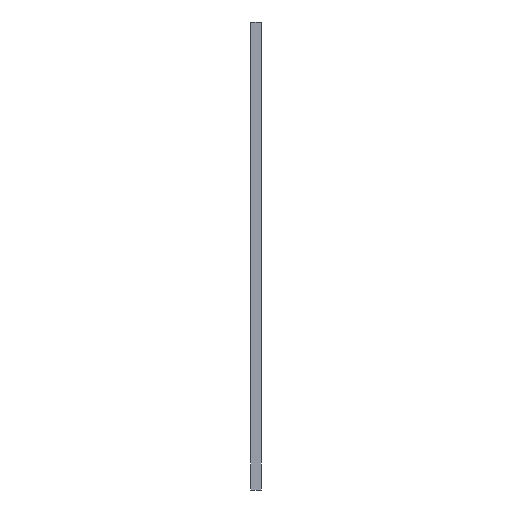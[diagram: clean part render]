
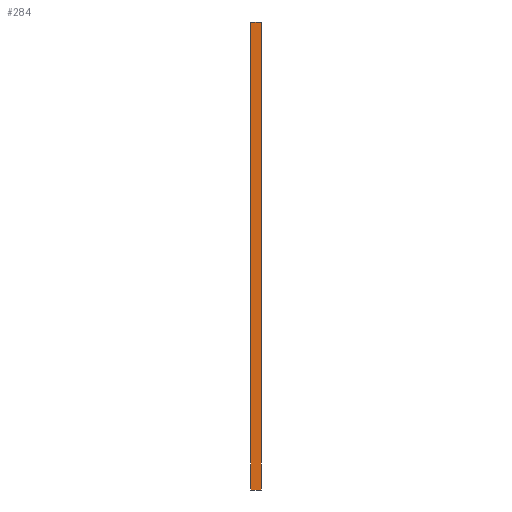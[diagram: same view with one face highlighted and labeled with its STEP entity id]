
A CAD part, front view. The second image highlights one B-rep face of the part: STEP entity #284.
In plain terms, the highlighted planar face has unit normal (0, -1, 0).
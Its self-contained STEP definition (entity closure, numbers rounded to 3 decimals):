
#21 = EDGE_CURVE('',#22,#24,#26,.T.);
#22 = VERTEX_POINT('',#23);
#23 = CARTESIAN_POINT('',(0.,0.,86.));
#24 = VERTEX_POINT('',#25);
#25 = CARTESIAN_POINT('',(2.,0.,86.));
#26 = SURFACE_CURVE('',#27,(#31,#43),.PCURVE_S1.);
#27 = LINE('',#28,#29);
#28 = CARTESIAN_POINT('',(0.,0.,86.));
#29 = VECTOR('',#30,1.);
#30 = DIRECTION('',(1.,0.,0.));
#31 = PCURVE('',#32,#37);
#32 = PLANE('',#33);
#33 = AXIS2_PLACEMENT_3D('',#34,#35,#36);
#34 = CARTESIAN_POINT('',(0.,0.,86.));
#35 = DIRECTION('',(0.,0.,1.));
#36 = DIRECTION('',(0.,1.,0.));
#37 = DEFINITIONAL_REPRESENTATION('',(#38),#42);
#38 = LINE('',#39,#40);
#39 = CARTESIAN_POINT('',(0.,0.));
#40 = VECTOR('',#41,1.);
#41 = DIRECTION('',(0.,-1.));
#42 = ( GEOMETRIC_REPRESENTATION_CONTEXT(2) 
PARAMETRIC_REPRESENTATION_CONTEXT() REPRESENTATION_CONTEXT('2D SPACE',''
  ) );
#43 = PCURVE('',#44,#49);
#44 = PLANE('',#45);
#45 = AXIS2_PLACEMENT_3D('',#46,#47,#48);
#46 = CARTESIAN_POINT('',(0.,0.,0.));
#47 = DIRECTION('',(0.,-1.,0.));
#48 = DIRECTION('',(0.,0.,1.));
#49 = DEFINITIONAL_REPRESENTATION('',(#50),#54);
#50 = LINE('',#51,#52);
#51 = CARTESIAN_POINT('',(86.,0.));
#52 = VECTOR('',#53,1.);
#53 = DIRECTION('',(0.,-1.));
#54 = ( GEOMETRIC_REPRESENTATION_CONTEXT(2) 
PARAMETRIC_REPRESENTATION_CONTEXT() REPRESENTATION_CONTEXT('2D SPACE',''
  ) );
#72 = PLANE('',#73);
#73 = AXIS2_PLACEMENT_3D('',#74,#75,#76);
#74 = CARTESIAN_POINT('',(2.,75.,43.));
#75 = DIRECTION('',(-1.,-0.,0.));
#76 = DIRECTION('',(0.,0.,-1.));
#126 = PLANE('',#127);
#127 = AXIS2_PLACEMENT_3D('',#128,#129,#130);
#128 = CARTESIAN_POINT('',(0.,75.,43.));
#129 = DIRECTION('',(-1.,-0.,0.));
#130 = DIRECTION('',(0.,0.,-1.));
#181 = PLANE('',#182);
#182 = AXIS2_PLACEMENT_3D('',#183,#184,#185);
#183 = CARTESIAN_POINT('',(0.,150.,0.));
#184 = DIRECTION('',(0.,0.,-1.));
#185 = DIRECTION('',(0.,-1.,0.));
#219 = VERTEX_POINT('',#220);
#220 = CARTESIAN_POINT('',(2.,0.,0.));
#241 = EDGE_CURVE('',#242,#219,#244,.T.);
#242 = VERTEX_POINT('',#243);
#243 = CARTESIAN_POINT('',(0.,0.,0.));
#244 = SURFACE_CURVE('',#245,(#249,#256),.PCURVE_S1.);
#245 = LINE('',#246,#247);
#246 = CARTESIAN_POINT('',(0.,0.,0.));
#247 = VECTOR('',#248,1.);
#248 = DIRECTION('',(1.,0.,0.));
#249 = PCURVE('',#181,#250);
#250 = DEFINITIONAL_REPRESENTATION('',(#251),#255);
#251 = LINE('',#252,#253);
#252 = CARTESIAN_POINT('',(150.,0.));
#253 = VECTOR('',#254,1.);
#254 = DIRECTION('',(0.,-1.));
#255 = ( GEOMETRIC_REPRESENTATION_CONTEXT(2) 
PARAMETRIC_REPRESENTATION_CONTEXT() REPRESENTATION_CONTEXT('2D SPACE',''
  ) );
#256 = PCURVE('',#44,#257);
#257 = DEFINITIONAL_REPRESENTATION('',(#258),#262);
#258 = LINE('',#259,#260);
#259 = CARTESIAN_POINT('',(0.,0.));
#260 = VECTOR('',#261,1.);
#261 = DIRECTION('',(0.,-1.));
#262 = ( GEOMETRIC_REPRESENTATION_CONTEXT(2) 
PARAMETRIC_REPRESENTATION_CONTEXT() REPRESENTATION_CONTEXT('2D SPACE',''
  ) );
#284 = ADVANCED_FACE('',(#285),#44,.T.);
#285 = FACE_BOUND('',#286,.T.);
#286 = EDGE_LOOP('',(#287,#288,#309,#310));
#287 = ORIENTED_EDGE('',*,*,#241,.T.);
#288 = ORIENTED_EDGE('',*,*,#289,.T.);
#289 = EDGE_CURVE('',#219,#24,#290,.T.);
#290 = SURFACE_CURVE('',#291,(#295,#302),.PCURVE_S1.);
#291 = LINE('',#292,#293);
#292 = CARTESIAN_POINT('',(2.,0.,0.));
#293 = VECTOR('',#294,1.);
#294 = DIRECTION('',(0.,0.,1.));
#295 = PCURVE('',#44,#296);
#296 = DEFINITIONAL_REPRESENTATION('',(#297),#301);
#297 = LINE('',#298,#299);
#298 = CARTESIAN_POINT('',(0.,-2.));
#299 = VECTOR('',#300,1.);
#300 = DIRECTION('',(1.,0.));
#301 = ( GEOMETRIC_REPRESENTATION_CONTEXT(2) 
PARAMETRIC_REPRESENTATION_CONTEXT() REPRESENTATION_CONTEXT('2D SPACE',''
  ) );
#302 = PCURVE('',#72,#303);
#303 = DEFINITIONAL_REPRESENTATION('',(#304),#308);
#304 = LINE('',#305,#306);
#305 = CARTESIAN_POINT('',(43.,75.));
#306 = VECTOR('',#307,1.);
#307 = DIRECTION('',(-1.,0.));
#308 = ( GEOMETRIC_REPRESENTATION_CONTEXT(2) 
PARAMETRIC_REPRESENTATION_CONTEXT() REPRESENTATION_CONTEXT('2D SPACE',''
  ) );
#309 = ORIENTED_EDGE('',*,*,#21,.F.);
#310 = ORIENTED_EDGE('',*,*,#311,.F.);
#311 = EDGE_CURVE('',#242,#22,#312,.T.);
#312 = SURFACE_CURVE('',#313,(#317,#324),.PCURVE_S1.);
#313 = LINE('',#314,#315);
#314 = CARTESIAN_POINT('',(0.,0.,0.));
#315 = VECTOR('',#316,1.);
#316 = DIRECTION('',(0.,0.,1.));
#317 = PCURVE('',#44,#318);
#318 = DEFINITIONAL_REPRESENTATION('',(#319),#323);
#319 = LINE('',#320,#321);
#320 = CARTESIAN_POINT('',(0.,0.));
#321 = VECTOR('',#322,1.);
#322 = DIRECTION('',(1.,0.));
#323 = ( GEOMETRIC_REPRESENTATION_CONTEXT(2) 
PARAMETRIC_REPRESENTATION_CONTEXT() REPRESENTATION_CONTEXT('2D SPACE',''
  ) );
#324 = PCURVE('',#126,#325);
#325 = DEFINITIONAL_REPRESENTATION('',(#326),#330);
#326 = LINE('',#327,#328);
#327 = CARTESIAN_POINT('',(43.,75.));
#328 = VECTOR('',#329,1.);
#329 = DIRECTION('',(-1.,0.));
#330 = ( GEOMETRIC_REPRESENTATION_CONTEXT(2) 
PARAMETRIC_REPRESENTATION_CONTEXT() REPRESENTATION_CONTEXT('2D SPACE',''
  ) );
